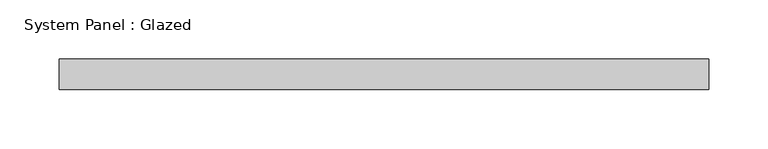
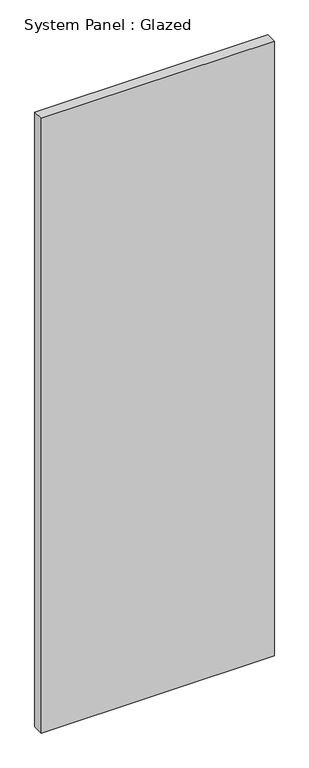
"""IFC4 building model written with IfcOpenShell, lengths in millimetres: plate geometry, System Panel : Glazed."""

from ifc_helpers import new_model, si_unit, origin, origin_with_axes, place, context, project, spatial, polyline, outline, extrude, source, transform, mapped, element, save


def system_panel_glazed_9d068737(model_context):
    return source(origin(), model_context, "Body", "SweptSolid", [
        extrude(outline(polyline([(273.05, -44.45), (-273.05, -44.45), (-273.05, -19.05), (273.05, -19.05), (273.05, -44.45)])), origin_with_axes(), (0.0, 0.0, 1.0), 1520.7368509),
    ])


if __name__ == "__main__":
    model = new_model("IFC4")
    model_context = context("Model", 3, world=origin())
    ifc_project = project(units=[si_unit("LENGTHUNIT", "METRE", prefix="MILLI")], contexts=[model_context])
    site = spatial("IfcSite", under=ifc_project)
    building = spatial("IfcBuilding", under=site)
    placement = place(None, origin())
    system_panel_glazed_shape = system_panel_glazed_9d068737(model_context)
    element("IfcPlate", 1, ObjectType="System Panel : Glazed", at=placement, inside=building, context=model_context, shape_type="MappedRepresentation", body=[
        mapped(system_panel_glazed_shape, transform((0.0, 0.0, 0.0), x_axis=(1.0, 0.0, 0.0), y_axis=(0.0, 1.0, 0.0), z_axis=(0.0, 0.0, 1.0))),
    ])
    save(model, "model.ifc")
